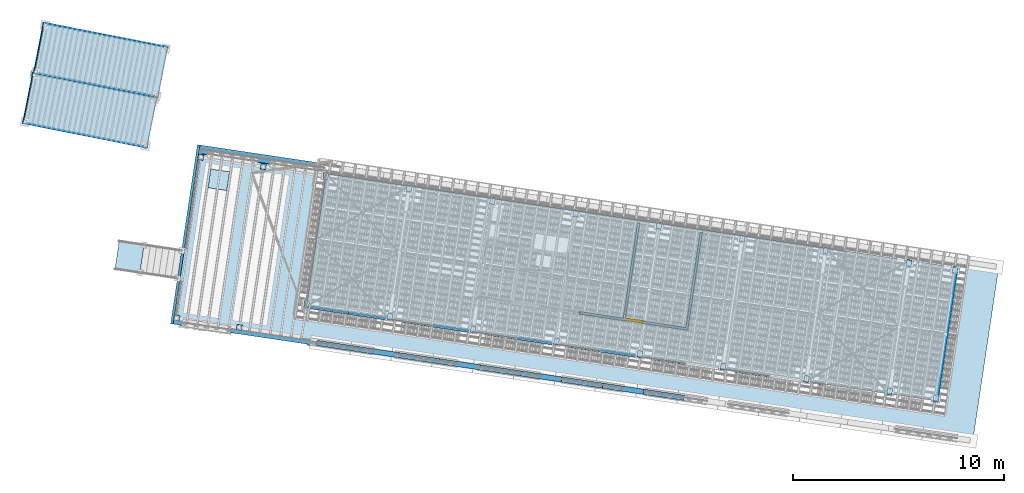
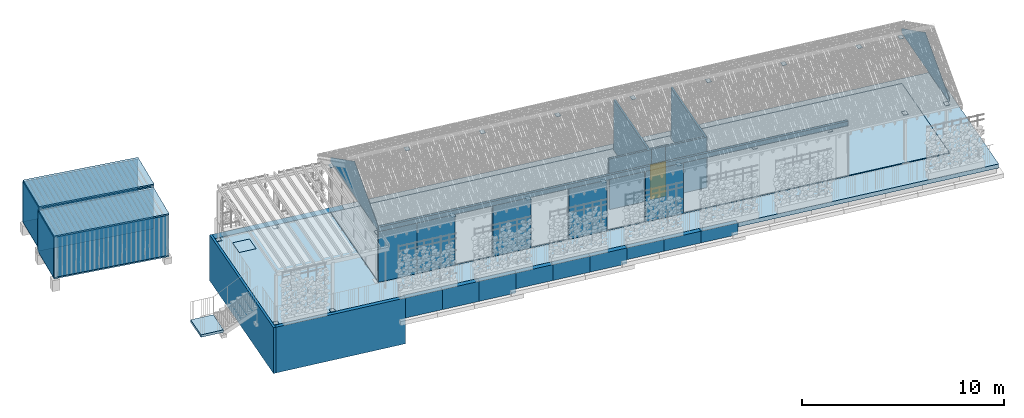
# One storey, part 117 of 128: 31 plates, 20 walls, 7 slabs, 1 door, 4 openings, 5 elements without a shape of their own.
"""IFC4 building model written with IfcOpenShell, lengths in metres."""

from ifc_helpers import new_model, si_unit, direction, frame, origin_with_axes, place, context, subcontext, project, spatial, polyline, outline, extrude, material, layer, layer_set, constituent, constituent_set, element, fill, aggregate, save


model = new_model("IFC4")

# Units and contexts
model_context = context("Model", 3, precision=1e-05, world=origin_with_axes(), true_north=direction((0.0, 1.0)))
body_context = subcontext(model_context, "Body", "Model", "MODEL_VIEW")
ifc_project = project(units=[si_unit("VOLUMEUNIT", "CUBIC_METRE"), si_unit("LENGTHUNIT", "METRE"), si_unit("AREAUNIT", "SQUARE_METRE")], contexts=[model_context])

# Site, building, storey
site_placement = place(None, origin_with_axes())
site = spatial("IfcSite", under=ifc_project, at=site_placement, Name="Lares · Rua das Mercês · artigo 4771")
building_placement = place(site_placement, frame((15.0, 9.7, 13.9), z_axis=(0.0, 0.0, 1.0), x_axis=(0.989015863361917, -0.147809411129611, 0.0)))
building = spatial("IfcBuilding", under=site, at=building_placement, Name="Casa Sobreposta")
storey_placement = place(building_placement, origin_with_axes())
storey = spatial("IfcBuildingStorey", under=building, at=storey_placement, Name="00 · Habitação e estacionamento", Elevation=13.9)

# Plates
ifc_material_1 = material(Name="Aço galvanizado / Stahl verzinkt", Category="steel")
plate_1_placement = place(storey_placement, frame((0.0, 0.0, 2.89), z_axis=(0.0, 0.0, 1.0), x_axis=(1.0, 0.0, 0.0)))
element("IfcPlate", 1, at=plate_1_placement, inside=storey, material=ifc_material_1, Name="Cobertura · ligação madeira aço", PredefinedType="SHEET", context=body_context, shape_type="SweptSolid", body=[
    extrude(outline(polyline([(0.12, -0.04), (0.12, 0.28), (-0.12, 0.28), (-0.12, -0.04), (0.12, -0.04)])), origin_with_axes(), (0.0, 0.0, 1.0), 0.012),
])
plate_2_placement = place(storey_placement, frame((0.0, 0.0, 2.89), z_axis=(0.0, 0.0, 1.0), x_axis=(1.0, 0.0, 0.0)))
element("IfcPlate", 2, at=plate_2_placement, inside=storey, material=ifc_material_1, Name="Cobertura · ligação madeira aço", PredefinedType="SHEET", context=body_context, shape_type="SweptSolid", body=[
    extrude(outline(polyline([(0.12, 6.12), (0.12, 6.44), (-0.12, 6.44), (-0.12, 6.12), (0.12, 6.12)])), origin_with_axes(), (0.0, 0.0, 1.0), 0.012),
])
plate_3_placement = place(storey_placement, frame((0.0, 0.0, 2.89), z_axis=(0.0, 0.0, 1.0), x_axis=(1.0, 0.0, 0.0)))
element("IfcPlate", 3, at=plate_3_placement, inside=storey, material=ifc_material_1, Name="Cobertura · ligação madeira aço", PredefinedType="SHEET", context=body_context, shape_type="SweptSolid", body=[
    extrude(outline(polyline([(4.12, -0.04), (4.12, 0.28), (3.88, 0.28), (3.88, -0.04), (4.12, -0.04)])), origin_with_axes(), (0.0, 0.0, 1.0), 0.012),
])
plate_4_placement = place(storey_placement, frame((0.0, 0.0, 2.89), z_axis=(0.0, 0.0, 1.0), x_axis=(1.0, 0.0, 0.0)))
element("IfcPlate", 4, at=plate_4_placement, inside=storey, material=ifc_material_1, Name="Cobertura · ligação madeira aço", PredefinedType="SHEET", context=body_context, shape_type="SweptSolid", body=[
    extrude(outline(polyline([(4.12, 6.12), (4.12, 6.44), (3.88, 6.44), (3.88, 6.12), (4.12, 6.12)])), origin_with_axes(), (0.0, 0.0, 1.0), 0.012),
])
plate_5_placement = place(storey_placement, frame((0.0, 0.0, 2.89), z_axis=(0.0, 0.0, 1.0), x_axis=(1.0, 0.0, 0.0)))
element("IfcPlate", 5, at=plate_5_placement, inside=storey, material=ifc_material_1, Name="Cobertura · ligação madeira aço", PredefinedType="SHEET", context=body_context, shape_type="SweptSolid", body=[
    extrude(outline(polyline([(8.12, -0.04), (8.12, 0.28), (7.88, 0.28), (7.88, -0.04), (8.12, -0.04)])), origin_with_axes(), (0.0, 0.0, 1.0), 0.012),
])
plate_6_placement = place(storey_placement, frame((0.0, 0.0, 2.89), z_axis=(0.0, 0.0, 1.0), x_axis=(1.0, 0.0, 0.0)))
element("IfcPlate", 6, at=plate_6_placement, inside=storey, material=ifc_material_1, Name="Cobertura · ligação madeira aço", PredefinedType="SHEET", context=body_context, shape_type="SweptSolid", body=[
    extrude(outline(polyline([(8.12, 6.12), (8.12, 6.44), (7.88, 6.44), (7.88, 6.12), (8.12, 6.12)])), origin_with_axes(), (0.0, 0.0, 1.0), 0.012),
])
plate_7_placement = place(storey_placement, frame((0.0, 0.0, 2.89), z_axis=(0.0, 0.0, 1.0), x_axis=(1.0, 0.0, 0.0)))
element("IfcPlate", 7, at=plate_7_placement, inside=storey, material=ifc_material_1, Name="Cobertura · ligação madeira aço", PredefinedType="SHEET", context=body_context, shape_type="SweptSolid", body=[
    extrude(outline(polyline([(12.12, -0.04), (12.12, 0.28), (11.88, 0.28), (11.88, -0.04), (12.12, -0.04)])), origin_with_axes(), (0.0, 0.0, 1.0), 0.012),
])
plate_8_placement = place(storey_placement, frame((0.0, 0.0, 2.89), z_axis=(0.0, 0.0, 1.0), x_axis=(1.0, 0.0, 0.0)))
element("IfcPlate", 8, at=plate_8_placement, inside=storey, material=ifc_material_1, Name="Cobertura · ligação madeira aço", PredefinedType="SHEET", context=body_context, shape_type="SweptSolid", body=[
    extrude(outline(polyline([(12.12, 6.12), (12.12, 6.44), (11.88, 6.44), (11.88, 6.12), (12.12, 6.12)])), origin_with_axes(), (0.0, 0.0, 1.0), 0.012),
])
plate_9_placement = place(storey_placement, frame((0.0, 0.0, 2.89), z_axis=(0.0, 0.0, 1.0), x_axis=(1.0, 0.0, 0.0)))
element("IfcPlate", 9, at=plate_9_placement, inside=storey, material=ifc_material_1, Name="Cobertura · ligação madeira aço", PredefinedType="SHEET", context=body_context, shape_type="SweptSolid", body=[
    extrude(outline(polyline([(16.12, -0.04), (16.12, 0.28), (15.88, 0.28), (15.88, -0.04), (16.12, -0.04)])), origin_with_axes(), (0.0, 0.0, 1.0), 0.012),
])
plate_10_placement = place(storey_placement, frame((0.0, 0.0, 2.89), z_axis=(0.0, 0.0, 1.0), x_axis=(1.0, 0.0, 0.0)))
element("IfcPlate", 10, at=plate_10_placement, inside=storey, material=ifc_material_1, Name="Cobertura · ligação madeira aço", PredefinedType="SHEET", context=body_context, shape_type="SweptSolid", body=[
    extrude(outline(polyline([(16.12, 6.12), (16.12, 6.44), (15.88, 6.44), (15.88, 6.12), (16.12, 6.12)])), origin_with_axes(), (0.0, 0.0, 1.0), 0.012),
])
plate_11_placement = place(storey_placement, frame((0.0, 0.0, 2.89), z_axis=(0.0, 0.0, 1.0), x_axis=(1.0, 0.0, 0.0)))
element("IfcPlate", 11, at=plate_11_placement, inside=storey, material=ifc_material_1, Name="Cobertura · ligação madeira aço", PredefinedType="SHEET", context=body_context, shape_type="SweptSolid", body=[
    extrude(outline(polyline([(20.12, -0.04), (20.12, 0.28), (19.88, 0.28), (19.88, -0.04), (20.12, -0.04)])), origin_with_axes(), (0.0, 0.0, 1.0), 0.012),
])
plate_12_placement = place(storey_placement, frame((0.0, 0.0, 2.89), z_axis=(0.0, 0.0, 1.0), x_axis=(1.0, 0.0, 0.0)))
element("IfcPlate", 12, at=plate_12_placement, inside=storey, material=ifc_material_1, Name="Cobertura · ligação madeira aço", PredefinedType="SHEET", context=body_context, shape_type="SweptSolid", body=[
    extrude(outline(polyline([(20.12, 6.12), (20.12, 6.44), (19.88, 6.44), (19.88, 6.12), (20.12, 6.12)])), origin_with_axes(), (0.0, 0.0, 1.0), 0.012),
])
plate_13_placement = place(storey_placement, frame((0.0, 0.0, 2.89), z_axis=(0.0, 0.0, 1.0), x_axis=(1.0, 0.0, 0.0)))
element("IfcPlate", 13, at=plate_13_placement, inside=storey, material=ifc_material_1, Name="Cobertura · ligação madeira aço", PredefinedType="SHEET", context=body_context, shape_type="SweptSolid", body=[
    extrude(outline(polyline([(24.12, -0.04), (24.12, 0.28), (23.88, 0.28), (23.88, -0.04), (24.12, -0.04)])), origin_with_axes(), (0.0, 0.0, 1.0), 0.012),
])
plate_14_placement = place(storey_placement, frame((0.0, 0.0, 2.89), z_axis=(0.0, 0.0, 1.0), x_axis=(1.0, 0.0, 0.0)))
element("IfcPlate", 14, at=plate_14_placement, inside=storey, material=ifc_material_1, Name="Cobertura · ligação madeira aço", PredefinedType="SHEET", context=body_context, shape_type="SweptSolid", body=[
    extrude(outline(polyline([(24.12, 6.12), (24.12, 6.44), (23.88, 6.44), (23.88, 6.12), (24.12, 6.12)])), origin_with_axes(), (0.0, 0.0, 1.0), 0.012),
])
plate_15_placement = place(storey_placement, frame((0.0, 0.0, 2.89), z_axis=(0.0, 0.0, 1.0), x_axis=(1.0, 0.0, 0.0)))
element("IfcPlate", 15, at=plate_15_placement, inside=storey, material=ifc_material_1, Name="Cobertura · ligação madeira aço", PredefinedType="SHEET", context=body_context, shape_type="SweptSolid", body=[
    extrude(outline(polyline([(28.12, -0.04), (28.12, 0.28), (27.88, 0.28), (27.88, -0.04), (28.12, -0.04)])), origin_with_axes(), (0.0, 0.0, 1.0), 0.012),
])
plate_16_placement = place(storey_placement, frame((0.0, 0.0, 2.89), z_axis=(0.0, 0.0, 1.0), x_axis=(1.0, 0.0, 0.0)))
element("IfcPlate", 16, at=plate_16_placement, inside=storey, material=ifc_material_1, Name="Cobertura · ligação madeira aço", PredefinedType="SHEET", context=body_context, shape_type="SweptSolid", body=[
    extrude(outline(polyline([(28.12, 6.12), (28.12, 6.44), (27.88, 6.44), (27.88, 6.12), (28.12, 6.12)])), origin_with_axes(), (0.0, 0.0, 1.0), 0.012),
])
plate_17_placement = place(storey_placement, frame((0.0, 0.0, 2.89), z_axis=(0.0, 0.0, 1.0), x_axis=(1.0, 0.0, 0.0)))
element("IfcPlate", 17, at=plate_17_placement, inside=storey, material=ifc_material_1, Name="Cobertura · ligação madeira aço", PredefinedType="SHEET", context=body_context, shape_type="SweptSolid", body=[
    extrude(outline(polyline([(30.34, -0.04), (30.34, 0.28), (30.1, 0.28), (30.1, -0.04), (30.34, -0.04)])), origin_with_axes(), (0.0, 0.0, 1.0), 0.012),
])
plate_18_placement = place(storey_placement, frame((0.0, 0.0, 2.89), z_axis=(0.0, 0.0, 1.0), x_axis=(1.0, 0.0, 0.0)))
element("IfcPlate", 18, at=plate_18_placement, inside=storey, material=ifc_material_1, Name="Cobertura · ligação madeira aço", PredefinedType="SHEET", context=body_context, shape_type="SweptSolid", body=[
    extrude(outline(polyline([(30.34, 6.12), (30.34, 6.44), (30.1, 6.44), (30.1, 6.12), (30.34, 6.12)])), origin_with_axes(), (0.0, 0.0, 1.0), 0.012),
])
ifc_material_2 = material(Name="Vidro / Normalglas", Category="glass")
plate_19_placement = place(storey_placement, frame((0.0, 0.0, 0.0), z_axis=(1.0, 0.0, 0.0), x_axis=(0.0, 1.0, 0.0)))
element("IfcPlate", 19, at=plate_19_placement, inside=storey, material=ifc_material_2, Name="Empena poente envidraçada", PredefinedType="SHEET", context=body_context, shape_type="SweptSolid", body=[
    extrude(outline(polyline([(0.0, 3.05), (6.4, 3.05), (6.4, 3.32), (3.2, 5.1675208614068), (0.0, 3.32), (0.0, 3.05)])), origin_with_axes(), (0.0, 0.0, 1.0), 0.02),
])
ifc_material_3 = material(Name="Madeira / Bauholz", Category="wood")
plate_20_placement = place(storey_placement, frame((30.3, 0.0, 0.0), z_axis=(1.0, 0.0, 0.0), x_axis=(0.0, 1.0, 0.0)))
element("IfcPlate", 20, at=plate_20_placement, inside=storey, material=ifc_material_3, Name="Empena nascente em madeira", PredefinedType="SHEET", context=body_context, shape_type="SweptSolid", body=[
    extrude(outline(polyline([(0.0, 3.05), (6.4, 3.05), (6.4, 3.32), (3.2, 5.1675208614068), (0.0, 3.32), (0.0, 3.05)])), origin_with_axes(), (0.0, 0.0, 1.0), 0.02),
])

# Assembly, slabs, opening, plate
assembly_1_placement = place(storey_placement, origin_with_axes())
assembly_1 = element("IfcElementAssembly", 21, at=assembly_1_placement, inside=storey, Name="Pódio · terraço, casa térrea e cisterna", ObjectType="CISTERN_PODIUM", PredefinedType="USERDEFINED")
ifc_material_4 = material(Name="Betão armado / Stahlbeton", Category="concrete")
slab_1_placement = place(assembly_1_placement, frame((0.0, 0.0, -0.25), z_axis=(0.0, 0.0, 1.0), x_axis=(1.0, 0.0, 0.0)))
slab_1 = element("IfcSlab", 22, at=slab_1_placement, material=ifc_material_4, Name="Pódio · laje da casa 250 mm", PredefinedType="FLOOR", context=body_context, shape_type="SweptSolid", body=[
    extrude(outline(polyline([(30.32, 0.0), (30.32, 6.4), (0.0, 6.4), (0.0, 0.0), (30.32, 0.0)])), origin_with_axes(), (0.0, 0.0, 1.0), 0.25),
])
slab_2_placement = place(assembly_1_placement, frame((0.0, 0.0, -0.29), z_axis=(0.0, 0.0, 1.0), x_axis=(1.0, 0.0, 0.0)))
slab_2 = element("IfcSlab", 23, at=slab_2_placement, material=ifc_material_4, Name="Pódio · terraço e faixa de proteção sul", PredefinedType="FLOOR", context=body_context, shape_type="SweptSolid", body=[
    extrude(outline(polyline([(-6.25, -1.75), (-6.25, 6.85), (32.25, 6.85), (32.25, -1.75), (-6.25, -1.75)]), holes=[polyline([(30.32, 6.4), (0.0, 6.4), (0.0, 0.0), (30.32, 0.0), (30.32, 6.4)])]), origin_with_axes(), (0.0, 0.0, 1.0), 0.25),
])
opening_1_placement = place(slab_2_placement, frame((0.0, 0.0, -0.06), z_axis=(0.0, 0.0, 1.0), x_axis=(1.0, 0.0, 0.0)))
element("IfcOpeningElement", 24, at=opening_1_placement, cuts=slab_2, Name="Cisterna · abertura de inspeção", PredefinedType="OPENING", context=body_context, shape_type="SweptSolid", body=[
    extrude(outline(polyline([(-4.55, 4.9), (-4.55, 5.8), (-5.45, 5.8), (-5.45, 4.9), (-4.55, 4.9)])), origin_with_axes(), (0.0, 0.0, 1.0), 0.4),
])
plate_21_placement = place(assembly_1_placement, frame((0.0, 0.0, -0.085), z_axis=(0.0, 0.0, 1.0), x_axis=(1.0, 0.0, 0.0)))
plate_21 = element("IfcPlate", 25, at=plate_21_placement, material=ifc_material_1, Name="Cisterna · tampa estanque de inspeção", PredefinedType="SHEET", context=body_context, shape_type="SweptSolid", body=[
    extrude(outline(polyline([(-4.55, 4.9), (-4.55, 5.8), (-5.45, 5.8), (-5.45, 4.9), (-4.55, 4.9)])), origin_with_axes(), (0.0, 0.0, 1.0), 0.045),
])

# Stair, slab
stair_placement = place(storey_placement, origin_with_axes())
stair = element("IfcStair", 26, at=stair_placement, inside=storey, Name="Jardim · escada pela fachada poente", PredefinedType="STRAIGHT_RUN_STAIR")
slab_3_placement = place(stair_placement, frame((0.0, 0.0, -1.25), z_axis=(0.0, 0.0, 1.0), x_axis=(1.0, 0.0, 0.0)))
slab_3 = element("IfcSlab", 27, at=slab_3_placement, material=ifc_material_4, Name="Jardim · patamar poente", PredefinedType="LANDING", context=body_context, shape_type="SweptSolid", body=[
    extrude(outline(polyline([(-8.05, 0.4), (-8.05, 1.8), (-9.25, 1.8), (-9.25, 0.4), (-8.05, 0.4)])), origin_with_axes(), (0.0, 0.0, 1.0), 0.15),
])
aggregate(stair, [slab_3])

# Assembly, plates
assembly_2_placement = place(storey_placement, origin_with_axes())
assembly_2 = element("IfcElementAssembly", 28, at=assembly_2_placement, inside=storey, Name="Pérgola de madeira · pátio 6 m", ObjectType="TIMBER_PATIO_PERGOLA", PredefinedType="USERDEFINED")
plate_22_placement = place(assembly_2_placement, frame((0.0, 0.0, -0.04), z_axis=(0.0, 0.0, 1.0), x_axis=(1.0, 0.0, 0.0)))
plate_22 = element("IfcPlate", 29, at=plate_22_placement, material=ifc_material_1, Name="Pérgola · base metálica", PredefinedType="SHEET", context=body_context, shape_type="SweptSolid", body=[
    extrude(outline(polyline([(-5.87, -1.57), (-5.87, -1.31), (-6.13, -1.31), (-6.13, -1.57), (-5.87, -1.57)])), origin_with_axes(), (0.0, 0.0, 1.0), 0.025),
])
plate_23_placement = place(assembly_2_placement, frame((0.0, 0.0, -0.04), z_axis=(0.0, 0.0, 1.0), x_axis=(1.0, 0.0, 0.0)))
plate_23 = element("IfcPlate", 30, at=plate_23_placement, material=ifc_material_1, Name="Pérgola · base metálica", PredefinedType="SHEET", context=body_context, shape_type="SweptSolid", body=[
    extrude(outline(polyline([(-5.87, 6.15), (-5.87, 6.41), (-6.13, 6.41), (-6.13, 6.15), (-5.87, 6.15)])), origin_with_axes(), (0.0, 0.0, 1.0), 0.025),
])
plate_24_placement = place(assembly_2_placement, frame((0.0, 0.0, -0.04), z_axis=(0.0, 0.0, 1.0), x_axis=(1.0, 0.0, 0.0)))
plate_24 = element("IfcPlate", 31, at=plate_24_placement, material=ifc_material_1, Name="Pérgola · base metálica", PredefinedType="SHEET", context=body_context, shape_type="SweptSolid", body=[
    extrude(outline(polyline([(-2.87, -1.57), (-2.87, -1.31), (-3.13, -1.31), (-3.13, -1.57), (-2.87, -1.57)])), origin_with_axes(), (0.0, 0.0, 1.0), 0.025),
])
plate_25_placement = place(assembly_2_placement, frame((0.0, 0.0, -0.04), z_axis=(0.0, 0.0, 1.0), x_axis=(1.0, 0.0, 0.0)))
plate_25 = element("IfcPlate", 32, at=plate_25_placement, material=ifc_material_1, Name="Pérgola · base metálica", PredefinedType="SHEET", context=body_context, shape_type="SweptSolid", body=[
    extrude(outline(polyline([(-2.87, 6.15), (-2.87, 6.41), (-3.13, 6.41), (-3.13, 6.15), (-2.87, 6.15)])), origin_with_axes(), (0.0, 0.0, 1.0), 0.025),
])
aggregate(assembly_2, [plate_22, plate_23, plate_24, plate_25])

# Assembly, slabs, plates
assembly_3_placement = place(storey_placement, frame((-14.4335953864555, 9.04888612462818, 0.0), z_axis=(0.0, 0.0, 1.0), x_axis=(0.999032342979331, -0.0439815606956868, 0.0)))
assembly_3 = element("IfcElementAssembly", 33, at=assembly_3_placement, inside=storey, Name="Contentor existente 1 · 6 m", ObjectType="EXISTING_SHIPPING_CONTAINER", PredefinedType="USERDEFINED")
ifc_material_5 = material(Name="Contentor · pintura 1", Category="steel")
slab_4_placement = place(assembly_3_placement, frame((0.0, 0.0, -0.263141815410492), z_axis=(0.0, 0.0, 1.0), x_axis=(1.0, 0.0, 0.0)))
slab_4 = element("IfcSlab", 34, at=slab_4_placement, material=ifc_material_5, Name="Contentor · piso ou teto", PredefinedType="FLOOR", context=body_context, shape_type="SweptSolid", body=[
    extrude(outline(polyline([(6.0, 0.0), (6.0, 2.44), (0.0, 2.44), (0.0, 0.0), (6.0, 0.0)])), origin_with_axes(), (0.0, 0.0, 1.0), 0.08),
])
slab_5_placement = place(assembly_3_placement, frame((0.0, 0.0, 2.24685818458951), z_axis=(0.0, 0.0, 1.0), x_axis=(1.0, 0.0, 0.0)))
slab_5 = element("IfcSlab", 35, at=slab_5_placement, material=ifc_material_5, Name="Contentor · piso ou teto", PredefinedType="FLOOR", context=body_context, shape_type="SweptSolid", body=[
    extrude(outline(polyline([(6.0, 0.0), (6.0, 2.44), (0.0, 2.44), (0.0, 0.0), (6.0, 0.0)])), origin_with_axes(), (0.0, 0.0, 1.0), 0.08),
])
plate_26_placement = place(assembly_3_placement, frame((0.0, 0.0, -0.183141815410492), z_axis=(0.0, 0.0, 1.0), x_axis=(1.0, 0.0, 0.0)))
plate_26 = element("IfcPlate", 36, at=plate_26_placement, material=ifc_material_5, Name="Contentor · chapa lateral", context=body_context, shape_type="SweptSolid", body=[
    extrude(outline(polyline([(6.0, 0.0325), (6.0, 0.0075), (0.0, 0.0075), (0.0, 0.0325), (6.0, 0.0325)])), origin_with_axes(), (0.0, 0.0, 1.0), 2.43),
])
plate_27_placement = place(assembly_3_placement, frame((0.0, 0.0, -0.183141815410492), z_axis=(0.0, 0.0, 1.0), x_axis=(1.0, 0.0, 0.0)))
plate_27 = element("IfcPlate", 37, at=plate_27_placement, material=ifc_material_5, Name="Contentor · chapa lateral", context=body_context, shape_type="SweptSolid", body=[
    extrude(outline(polyline([(6.0, 2.4325), (6.0, 2.4075), (0.0, 2.4075), (0.0, 2.4325), (6.0, 2.4325)])), origin_with_axes(), (0.0, 0.0, 1.0), 2.43),
])
plate_28_placement = place(assembly_3_placement, frame((0.0, 0.0, -0.183141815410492), z_axis=(0.0, 0.0, 1.0), x_axis=(1.0, 0.0, 0.0)))
plate_28 = element("IfcPlate", 38, at=plate_28_placement, material=ifc_material_5, Name="Contentor · chapa de fundo", context=body_context, shape_type="SweptSolid", body=[
    extrude(outline(polyline([(-0.025, 2.44), (0.025, 2.44), (0.025, 0.0), (-0.025, 0.0), (-0.025, 2.44)])), origin_with_axes(), (0.0, 0.0, 1.0), 2.43),
])
aggregate(assembly_3, [slab_4, slab_5, plate_26, plate_27, plate_28])

assembly_4_placement = place(storey_placement, frame((-14.5932944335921, 6.63122214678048, 0.0), z_axis=(0.0, 0.0, 1.0), x_axis=(0.998832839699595, -0.0483007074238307, 0.0)))
assembly_4 = element("IfcElementAssembly", 39, at=assembly_4_placement, inside=storey, Name="Contentor existente 2 · 6 m", ObjectType="EXISTING_SHIPPING_CONTAINER", PredefinedType="USERDEFINED")
ifc_material_6 = material(Name="Contentor · pintura 2", Category="steel")
slab_6_placement = place(assembly_4_placement, frame((0.0, 0.0, -0.418751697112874), z_axis=(0.0, 0.0, 1.0), x_axis=(1.0, 0.0, 0.0)))
slab_6 = element("IfcSlab", 40, at=slab_6_placement, material=ifc_material_6, Name="Contentor · piso ou teto", PredefinedType="FLOOR", context=body_context, shape_type="SweptSolid", body=[
    extrude(outline(polyline([(6.0, 0.0), (6.0, 2.44), (0.0, 2.44), (0.0, 0.0), (6.0, 0.0)])), origin_with_axes(), (0.0, 0.0, 1.0), 0.08),
])
slab_7_placement = place(assembly_4_placement, frame((0.0, 0.0, 2.09124830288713), z_axis=(0.0, 0.0, 1.0), x_axis=(1.0, 0.0, 0.0)))
slab_7 = element("IfcSlab", 41, at=slab_7_placement, material=ifc_material_6, Name="Contentor · piso ou teto", PredefinedType="FLOOR", context=body_context, shape_type="SweptSolid", body=[
    extrude(outline(polyline([(6.0, 0.0), (6.0, 2.44), (0.0, 2.44), (0.0, 0.0), (6.0, 0.0)])), origin_with_axes(), (0.0, 0.0, 1.0), 0.08),
])
plate_29_placement = place(assembly_4_placement, frame((0.0, 0.0, -0.338751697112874), z_axis=(0.0, 0.0, 1.0), x_axis=(1.0, 0.0, 0.0)))
plate_29 = element("IfcPlate", 42, at=plate_29_placement, material=ifc_material_6, Name="Contentor · chapa lateral", context=body_context, shape_type="SweptSolid", body=[
    extrude(outline(polyline([(6.0, 0.0325), (6.0, 0.0075), (0.0, 0.0075), (0.0, 0.0325), (6.0, 0.0325)])), origin_with_axes(), (0.0, 0.0, 1.0), 2.43),
])
plate_30_placement = place(assembly_4_placement, frame((0.0, 0.0, -0.338751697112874), z_axis=(0.0, 0.0, 1.0), x_axis=(1.0, 0.0, 0.0)))
plate_30 = element("IfcPlate", 43, at=plate_30_placement, material=ifc_material_6, Name="Contentor · chapa lateral", context=body_context, shape_type="SweptSolid", body=[
    extrude(outline(polyline([(6.0, 2.4325), (6.0, 2.4075), (0.0, 2.4075), (0.0, 2.4325), (6.0, 2.4325)])), origin_with_axes(), (0.0, 0.0, 1.0), 2.43),
])
plate_31_placement = place(assembly_4_placement, frame((0.0, 0.0, -0.338751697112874), z_axis=(0.0, 0.0, 1.0), x_axis=(1.0, 0.0, 0.0)))
plate_31 = element("IfcPlate", 44, at=plate_31_placement, material=ifc_material_6, Name="Contentor · chapa de fundo", context=body_context, shape_type="SweptSolid", body=[
    extrude(outline(polyline([(-0.025, 2.44), (0.025, 2.44), (0.025, 0.0), (-0.025, 0.0), (-0.025, 2.44)])), origin_with_axes(), (0.0, 0.0, 1.0), 2.43),
])
aggregate(assembly_4, [slab_6, slab_7, plate_29, plate_30, plate_31])

# Wall, openings, door
ifc_material_7 = material(Name="OSB", Category="wood")
ifc_constituent_1 = constituent(ifc_material_7, Name="osb")
ifc_material_8 = material(Name="Lã mineral / Mineralwolle 2", Category="mineral wool")
ifc_constituent_2 = constituent(ifc_material_8, Name="wool")
ifc_constituent_set_1 = constituent_set(constituents=[ifc_constituent_1, ifc_constituent_2], Name="OSB22 / lã mineral / OSB22")
wall_1_placement = place(storey_placement, origin_with_axes())
wall_1 = element("IfcWall", 45, at=wall_1_placement, inside=storey, material=ifc_constituent_set_1, Name="Divisória 3 · OSB 22 mm nas duas faces", context=body_context, shape_type="SweptSolid", body=[
    extrude(outline(polyline([(15.07, 6.27299999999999), (15.07, 1.70993390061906), (15.9846265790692, 1.71008560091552), (15.9846448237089, 1.60008560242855), (15.1199999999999, 1.59994219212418), (15.1199999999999, 1.57999999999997), (12.8699999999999, 1.57999999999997), (12.8699999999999, 1.68999999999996), (14.97, 1.68999999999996), (14.97, 6.27299999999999), (15.07, 6.27299999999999)]), holes=[polyline([(14.992, 1.66799999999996), (12.8919999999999, 1.66799999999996), (12.8919999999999, 1.60199999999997), (15.0979999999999, 1.60199999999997), (15.0979999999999, 1.6219385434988), (15.9626411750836, 1.62208195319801), (15.9626302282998, 1.68808195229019), (15.048, 1.68793025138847), (15.048, 6.25099999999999), (14.992, 6.25099999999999), (14.992, 1.66799999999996)])]), origin_with_axes(), (0.0, 0.0, 1.0), 3.05),
    extrude(outline(polyline([(14.992, 6.25099999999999), (15.048, 6.25099999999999), (15.048, 1.68793025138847), (15.9626302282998, 1.68808195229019), (15.9626411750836, 1.62208195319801), (15.0979999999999, 1.6219385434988), (15.0979999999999, 1.60199999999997), (12.8919999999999, 1.60199999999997), (12.8919999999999, 1.66799999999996), (14.992, 1.66799999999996), (14.992, 6.25099999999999)])), origin_with_axes(), (0.0, 0.0, 1.0), 3.05),
])
opening_2_placement = place(wall_1_placement, origin_with_axes())
opening_2 = element("IfcOpeningElement", 46, at=opening_2_placement, cuts=wall_1, PredefinedType="OPENING", context=body_context, shape_type="SweptSolid", body=[
    extrude(outline(polyline([(15.9146091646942, 1.81507398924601), (15.9146622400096, 1.49507399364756), (15.0845696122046, 1.49493631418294), (15.0845165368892, 1.8149363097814), (15.9146091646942, 1.81507398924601)])), origin_with_axes(), (0.0, 0.0, 1.0), 2.1),
])
opening_3_placement = place(wall_1_placement, origin_with_axes())
element("IfcOpeningElement", 47, at=opening_3_placement, cuts=wall_1, PredefinedType="OPENING", context=body_context, shape_type="SweptSolid", body=[
    extrude(outline(polyline([(12.9045964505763, 1.81507398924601), (12.9046495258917, 1.49507399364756), (12.0745568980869, 1.49493631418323), (12.0745038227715, 1.81493630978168), (12.9045964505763, 1.81507398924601)])), origin_with_axes(), (0.0, 0.0, 1.0), 2.1),
])
door_placement = place(storey_placement, origin_with_axes())
door = element("IfcDoor", 48, at=door_placement, inside=storey, material=ifc_material_7, Name="Porta interior 1", OperationType="SINGLE_SWING_LEFT", OverallHeight=2.1, OverallWidth=0.830092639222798, PredefinedType="DOOR", context=body_context, shape_type="SweptSolid", body=[
    extrude(outline(polyline([(15.9146327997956, 1.67257399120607), (15.9146386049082, 1.63757399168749), (15.0845459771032, 1.63743631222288), (15.0845401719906, 1.67243631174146), (15.9146327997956, 1.67257399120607)])), origin_with_axes(), (0.0, 0.0, 1.0), 2.1),
])
fill(opening_2, door)

# Wall, opening
ifc_constituent_3 = constituent(ifc_material_7, Name="osb")
ifc_constituent_4 = constituent(ifc_material_8, Name="wool")
ifc_constituent_set_2 = constituent_set(constituents=[ifc_constituent_3, ifc_constituent_4], Name="OSB22 / lã mineral / OSB22")
wall_2_placement = place(storey_placement, origin_with_axes())
wall_2 = element("IfcWall", 49, at=wall_2_placement, inside=storey, material=ifc_constituent_set_2, Name="Divisória 4 · OSB 22 mm nas duas faces", context=body_context, shape_type="SweptSolid", body=[
    extrude(outline(polyline([(17.98, 6.21236749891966), (18.0799999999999, 6.29570083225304), (18.0799999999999, 1.57999999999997), (15.8799999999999, 1.57999999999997), (15.8799999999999, 1.68999999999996), (17.98, 1.68999999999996), (17.98, 6.21236749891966)]), holes=[polyline([(15.9019999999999, 1.66799999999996), (15.9019999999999, 1.60199999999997), (18.0579999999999, 1.60199999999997), (18.0579999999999, 6.24872991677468), (18.002, 6.202063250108), (18.002, 1.66799999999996), (15.9019999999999, 1.66799999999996)])]), origin_with_axes(), (0.0, 0.0, 1.0), 3.05),
    extrude(outline(polyline([(18.002, 1.66799999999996), (18.002, 6.202063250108), (18.0579999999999, 6.24872991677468), (18.0579999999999, 1.60199999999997), (15.9019999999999, 1.60199999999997), (15.9019999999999, 1.66799999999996), (18.002, 1.66799999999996)])), origin_with_axes(), (0.0, 0.0, 1.0), 3.05),
])
opening_4_placement = place(wall_2_placement, origin_with_axes())
element("IfcOpeningElement", 50, at=opening_4_placement, cuts=wall_2, PredefinedType="OPENING", context=body_context, shape_type="SweptSolid", body=[
    extrude(outline(polyline([(15.9146091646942, 1.81507398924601), (15.9146622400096, 1.49507399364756), (15.0845696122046, 1.49493631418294), (15.0845165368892, 1.8149363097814), (15.9146091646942, 1.81507398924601)])), origin_with_axes(), (0.0, 0.0, 1.0), 2.1),
])

# Walls
ifc_material_9 = material(Name="Aço pintado / Stahl lackiert", Category="steel")
ifc_layer_1 = layer(ifc_material_9, 0.005, Name="steel")
ifc_layer_2 = layer(ifc_material_8, 0.12, Name="wool")
ifc_layer_3 = layer(ifc_material_9, 0.00516, Name="steel")
ifc_layer_set_1 = layer_set([ifc_layer_1, ifc_layer_2, ifc_layer_3], Name="Casa DFL sandwich · 130.16 mm")
wall_3_placement = place(storey_placement, origin_with_axes())
element("IfcWall", 51, at=wall_3_placement, inside=storey, material=ifc_layer_set_1, Name="Painel opaco sul 0", context=body_context, shape_type="SweptSolid", body=[
    extrude(outline(polyline([(2.02133333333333, 0.06508), (2.02133333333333, -0.06508), (0.0, -0.06508), (0.0, 0.06508), (2.02133333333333, 0.06508)])), origin_with_axes(), (0.0, 0.0, 1.0), 3.05),
])
ifc_layer_4 = layer(ifc_material_9, 0.005, Name="steel")
ifc_layer_5 = layer(ifc_material_8, 0.12, Name="wool")
ifc_layer_6 = layer(ifc_material_9, 0.00516, Name="steel")
ifc_layer_set_2 = layer_set([ifc_layer_4, ifc_layer_5, ifc_layer_6], Name="Casa DFL sandwich · 130.16 mm")
wall_4_placement = place(storey_placement, origin_with_axes())
element("IfcWall", 52, at=wall_4_placement, inside=storey, material=ifc_layer_set_2, Name="Painel opaco sul 1", context=body_context, shape_type="SweptSolid", body=[
    extrude(outline(polyline([(4.04266666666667, 0.06508), (4.04266666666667, -0.06508), (2.02133333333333, -0.06508), (2.02133333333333, 0.06508), (4.04266666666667, 0.06508)])), origin_with_axes(), (0.0, 0.0, 1.0), 3.05),
])
ifc_layer_7 = layer(ifc_material_9, 0.005, Name="steel")
ifc_layer_8 = layer(ifc_material_8, 0.12, Name="wool")
ifc_layer_9 = layer(ifc_material_9, 0.00516, Name="steel")
ifc_layer_set_3 = layer_set([ifc_layer_7, ifc_layer_8, ifc_layer_9], Name="Casa DFL sandwich · 130.16 mm")
wall_5_placement = place(storey_placement, origin_with_axes())
element("IfcWall", 53, at=wall_5_placement, inside=storey, material=ifc_layer_set_3, Name="Painel opaco sul 3", context=body_context, shape_type="SweptSolid", body=[
    extrude(outline(polyline([(8.08533333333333, 0.06508), (8.08533333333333, -0.06508), (6.064, -0.06508), (6.064, 0.06508), (8.08533333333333, 0.06508)])), origin_with_axes(), (0.0, 0.0, 1.0), 3.05),
])
ifc_layer_10 = layer(ifc_material_9, 0.005, Name="steel")
ifc_layer_11 = layer(ifc_material_8, 0.12, Name="wool")
ifc_layer_12 = layer(ifc_material_9, 0.00516, Name="steel")
ifc_layer_set_4 = layer_set([ifc_layer_10, ifc_layer_11, ifc_layer_12], Name="Casa DFL sandwich · 130.16 mm")
wall_6_placement = place(storey_placement, origin_with_axes())
element("IfcWall", 54, at=wall_6_placement, inside=storey, material=ifc_layer_set_4, Name="Painel opaco sul 5", context=body_context, shape_type="SweptSolid", body=[
    extrude(outline(polyline([(12.128, 0.06508), (12.128, -0.06508), (10.1066666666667, -0.06508), (10.1066666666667, 0.06508), (12.128, 0.06508)])), origin_with_axes(), (0.0, 0.0, 1.0), 3.05),
])
ifc_layer_13 = layer(ifc_material_9, 0.005, Name="steel")
ifc_layer_14 = layer(ifc_material_8, 0.12, Name="wool")
ifc_layer_15 = layer(ifc_material_9, 0.00516, Name="steel")
ifc_layer_set_5 = layer_set([ifc_layer_13, ifc_layer_14, ifc_layer_15], Name="Casa DFL sandwich · 130.16 mm")
wall_7_placement = place(storey_placement, origin_with_axes())
element("IfcWall", 55, at=wall_7_placement, inside=storey, material=ifc_layer_set_5, Name="Painel opaco sul 7", context=body_context, shape_type="SweptSolid", body=[
    extrude(outline(polyline([(16.1706666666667, 0.06508), (16.1706666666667, -0.06508), (14.1493333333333, -0.06508), (14.1493333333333, 0.06508), (16.1706666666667, 0.06508)])), origin_with_axes(), (0.0, 0.0, 1.0), 3.05),
])
wall_8_placement = place(storey_placement, frame((0.0, 0.0, 3.05), z_axis=(0.0, 0.0, 1.0), x_axis=(1.0, 0.0, 0.0)))
element("IfcWall", 56, at=wall_8_placement, inside=storey, material=ifc_material_3, Name="Fachada · remate sob frechal", context=body_context, shape_type="SweptSolid", body=[
    extrude(outline(polyline([(24.92, 0.065), (24.92, -0.065), (0.0, -0.065), (0.0, 0.065), (24.92, 0.065)])), origin_with_axes(), (0.0, 0.0, 1.0), 0.27),
])

# Wall
wall_9_placement = place(assembly_1_placement, frame((0.0, 0.0, -1.25), z_axis=(0.0, 0.0, 1.0), x_axis=(1.0, 0.0, 0.0)))
wall_9 = element("IfcWall", 57, at=wall_9_placement, material=ifc_material_4, Name="Pódio · contenção sul", ObjectType="Pódio · contenção sul", PredefinedType="USERDEFINED", context=body_context, shape_type="SweptSolid", body=[
    extrude(outline(polyline([(2.7109375, -1.5), (2.7109375, -1.75), (0.75, -1.75), (0.75, -1.5), (2.7109375, -1.5)])), origin_with_axes(), (0.0, 0.0, 1.0), 1.21),
])

wall_10_placement = place(assembly_1_placement, frame((0.0, 0.0, -1.25), z_axis=(0.0, 0.0, 1.0), x_axis=(1.0, 0.0, 0.0)))
wall_10 = element("IfcWall", 58, at=wall_10_placement, material=ifc_material_4, Name="Pódio · contenção sul", ObjectType="Pódio · contenção sul", PredefinedType="USERDEFINED", context=body_context, shape_type="SweptSolid", body=[
    extrude(outline(polyline([(4.671875, -1.5), (4.671875, -1.75), (2.7109375, -1.75), (2.7109375, -1.5), (4.671875, -1.5)])), origin_with_axes(), (0.0, 0.0, 1.0), 1.21),
])

wall_11_placement = place(assembly_1_placement, frame((0.0, 0.0, -1.25), z_axis=(0.0, 0.0, 1.0), x_axis=(1.0, 0.0, 0.0)))
wall_11 = element("IfcWall", 59, at=wall_11_placement, material=ifc_material_4, Name="Pódio · contenção sul", ObjectType="Pódio · contenção sul", PredefinedType="USERDEFINED", context=body_context, shape_type="SweptSolid", body=[
    extrude(outline(polyline([(6.6328125, -1.5), (6.6328125, -1.75), (4.671875, -1.75), (4.671875, -1.5), (6.6328125, -1.5)])), origin_with_axes(), (0.0, 0.0, 1.0), 1.21),
])

wall_12_placement = place(assembly_1_placement, frame((0.0, 0.0, -1.0), z_axis=(0.0, 0.0, 1.0), x_axis=(1.0, 0.0, 0.0)))
wall_12 = element("IfcWall", 60, at=wall_12_placement, material=ifc_material_4, Name="Pódio · contenção sul", ObjectType="Pódio · contenção sul", PredefinedType="USERDEFINED", context=body_context, shape_type="SweptSolid", body=[
    extrude(outline(polyline([(8.59375, -1.5), (8.59375, -1.75), (6.6328125, -1.75), (6.6328125, -1.5), (8.59375, -1.5)])), origin_with_axes(), (0.0, 0.0, 1.0), 0.96),
])

wall_13_placement = place(assembly_1_placement, frame((0.0, 0.0, -1.0), z_axis=(0.0, 0.0, 1.0), x_axis=(1.0, 0.0, 0.0)))
wall_13 = element("IfcWall", 61, at=wall_13_placement, material=ifc_material_4, Name="Pódio · contenção sul", ObjectType="Pódio · contenção sul", PredefinedType="USERDEFINED", context=body_context, shape_type="SweptSolid", body=[
    extrude(outline(polyline([(10.5546875, -1.5), (10.5546875, -1.75), (8.59375, -1.75), (8.59375, -1.5), (10.5546875, -1.5)])), origin_with_axes(), (0.0, 0.0, 1.0), 0.96),
])

wall_14_placement = place(assembly_1_placement, frame((0.0, 0.0, -1.0), z_axis=(0.0, 0.0, 1.0), x_axis=(1.0, 0.0, 0.0)))
wall_14 = element("IfcWall", 62, at=wall_14_placement, material=ifc_material_4, Name="Pódio · contenção sul", ObjectType="Pódio · contenção sul", PredefinedType="USERDEFINED", context=body_context, shape_type="SweptSolid", body=[
    extrude(outline(polyline([(12.515625, -1.5), (12.515625, -1.75), (10.5546875, -1.75), (10.5546875, -1.5), (12.515625, -1.5)])), origin_with_axes(), (0.0, 0.0, 1.0), 0.96),
])

wall_15_placement = place(assembly_1_placement, frame((0.0, 0.0, -0.75), z_axis=(0.0, 0.0, 1.0), x_axis=(1.0, 0.0, 0.0)))
wall_15 = element("IfcWall", 63, at=wall_15_placement, material=ifc_material_4, Name="Pódio · contenção sul", ObjectType="Pódio · contenção sul", PredefinedType="USERDEFINED", context=body_context, shape_type="SweptSolid", body=[
    extrude(outline(polyline([(14.4765625, -1.5), (14.4765625, -1.75), (12.515625, -1.75), (12.515625, -1.5), (14.4765625, -1.5)])), origin_with_axes(), (0.0, 0.0, 1.0), 0.71),
])

wall_16_placement = place(assembly_1_placement, frame((0.0, 0.0, -0.75), z_axis=(0.0, 0.0, 1.0), x_axis=(1.0, 0.0, 0.0)))
wall_16 = element("IfcWall", 64, at=wall_16_placement, material=ifc_material_4, Name="Pódio · contenção sul", ObjectType="Pódio · contenção sul", PredefinedType="USERDEFINED", context=body_context, shape_type="SweptSolid", body=[
    extrude(outline(polyline([(16.4375, -1.5), (16.4375, -1.75), (14.4765625, -1.75), (14.4765625, -1.5), (16.4375, -1.5)])), origin_with_axes(), (0.0, 0.0, 1.0), 0.71),
])

wall_17_placement = place(assembly_1_placement, frame((0.0, 0.0, -0.75), z_axis=(0.0, 0.0, 1.0), x_axis=(1.0, 0.0, 0.0)))
wall_17 = element("IfcWall", 65, at=wall_17_placement, material=ifc_material_4, Name="Pódio · contenção sul", ObjectType="Pódio · contenção sul", PredefinedType="USERDEFINED", context=body_context, shape_type="SweptSolid", body=[
    extrude(outline(polyline([(18.3984375, -1.5), (18.3984375, -1.75), (16.4375, -1.75), (16.4375, -1.5), (18.3984375, -1.5)])), origin_with_axes(), (0.0, 0.0, 1.0), 0.71),
])

wall_18_placement = place(assembly_1_placement, frame((0.0, 0.0, -2.8), z_axis=(0.0, 0.0, 1.0), x_axis=(1.0, 0.0, 0.0)))
wall_18 = element("IfcWall", 66, at=wall_18_placement, material=ifc_material_4, Name="Pódio · bordo junto à cisterna", ObjectType="Pódio · bordo junto à cisterna", PredefinedType="USERDEFINED", context=body_context, shape_type="SweptSolid", body=[
    extrude(outline(polyline([(-6.125, -1.75), (-6.125, 6.85), (-6.25, 6.85), (-6.25, -1.75), (-6.125, -1.75)])), origin_with_axes(), (0.0, 0.0, 1.0), 2.76),
])

wall_19_placement = place(assembly_1_placement, frame((0.0, 0.0, -2.8), z_axis=(0.0, 0.0, 1.0), x_axis=(1.0, 0.0, 0.0)))
wall_19 = element("IfcWall", 67, at=wall_19_placement, material=ifc_material_4, Name="Pódio · bordo junto à cisterna", ObjectType="Pódio · bordo junto à cisterna", PredefinedType="USERDEFINED", context=body_context, shape_type="SweptSolid", body=[
    extrude(outline(polyline([(0.75, 6.45), (0.75, 6.85), (-6.125, 6.85), (-6.125, 6.45), (0.75, 6.45)])), origin_with_axes(), (0.0, 0.0, 1.0), 2.76),
])

wall_20_placement = place(assembly_1_placement, frame((0.0, 0.0, -2.8), z_axis=(0.0, 0.0, 1.0), x_axis=(1.0, 0.0, 0.0)))
wall_20 = element("IfcWall", 68, at=wall_20_placement, material=ifc_material_4, Name="Pódio · bordo junto à cisterna", ObjectType="Pódio · bordo junto à cisterna", PredefinedType="USERDEFINED", context=body_context, shape_type="SweptSolid", body=[
    extrude(outline(polyline([(0.75, -1.75), (0.75, -1.55), (-6.125, -1.55), (-6.125, -1.75), (0.75, -1.75)])), origin_with_axes(), (0.0, 0.0, 1.0), 2.76),
])

aggregate(assembly_1, [slab_1, slab_2, plate_21, wall_9, wall_10, wall_11, wall_12, wall_13, wall_14, wall_15, wall_16, wall_17, wall_18, wall_19, wall_20])

save(model, "model.ifc")
